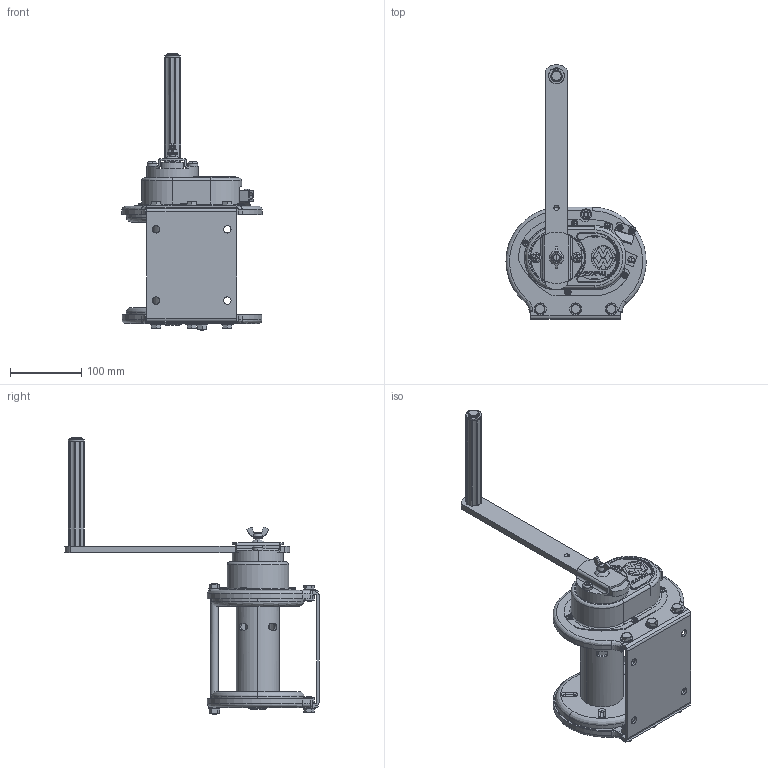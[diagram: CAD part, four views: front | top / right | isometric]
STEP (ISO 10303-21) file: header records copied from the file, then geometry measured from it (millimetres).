
FILE_DESCRIPTION( (''), '2;1');
FILE_NAME ('SB-1.stp','2024-01-09T10:35:25',(''),(''),'spGate 19.8.2 (****-****-****-****)','','');
FILE_SCHEMA (('AUTOMOTIVE_DESIGN'));
Length unit declared in the file: millimetre
Products named in the file (3): Assembly; SB-1-prt0; SB-1-prt1
Assembly tree (2 placements, depth 2):
  Assembly
    SB-1-prt0
    SB-1-prt1
Bounding box: 196.82 x 356.93 x 389.8 mm (x, y, z)
Volume: 999853 mm3; surface area: 434678.5 mm2
Topology: 2 solids, 2 shells, 2221 faces, 5793 edges, 3647 vertices
Faces by surface type: plane 1041, cylinder 767, bspline 349, sphere 64
Entity records: 119576 total; most frequent: CARTESIAN_POINT 21301, ORIENTED_EDGE 11454, DIRECTION 10623, COLOUR_RGB 7950, PRESENTATION_STYLE_ASSIGNMENT 7950, STYLED_ITEM 7950, EDGE_CURVE 5727, DRAUGHTING_PRE_DEFINED_CURVE_FONT 5727
